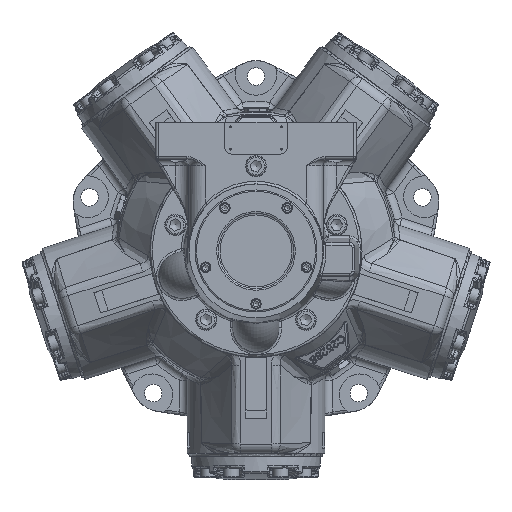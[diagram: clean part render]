
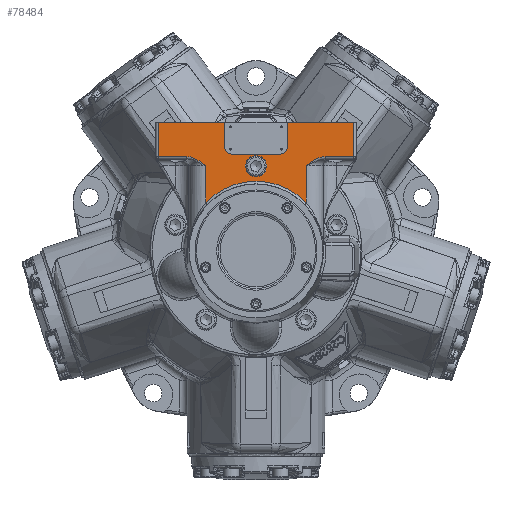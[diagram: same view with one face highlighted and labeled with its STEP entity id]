
A CAD part, top view. The second image highlights one B-rep face of the part: STEP entity #78484.
In plain terms, the highlighted planar face has unit normal (0, 0, 1).
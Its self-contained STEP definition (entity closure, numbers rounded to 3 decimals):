
#1197=FACE_BOUND('',#20373,.T.);
#3378=PLANE('',#84690);
#7247=LINE('',#214748,#10672);
#7265=LINE('',#215688,#10690);
#7283=LINE('',#216048,#10708);
#7284=LINE('',#216050,#10709);
#7285=LINE('',#216052,#10710);
#7286=LINE('',#216054,#10711);
#7287=LINE('',#216082,#10712);
#7288=LINE('',#216084,#10713);
#7289=LINE('',#216086,#10714);
#7290=LINE('',#216088,#10715);
#7291=LINE('',#216092,#10716);
#10672=VECTOR('',#100155,10.);
#10690=VECTOR('',#100221,10.);
#10708=VECTOR('',#100313,10.);
#10709=VECTOR('',#100314,10.);
#10710=VECTOR('',#100315,10.);
#10711=VECTOR('',#100316,10.);
#10712=VECTOR('',#100319,10.);
#10713=VECTOR('',#100320,10.);
#10714=VECTOR('',#100321,10.);
#10715=VECTOR('',#100322,10.);
#10716=VECTOR('',#100325,10.);
#15446=FACE_OUTER_BOUND('',#20372,.T.);
#20372=EDGE_LOOP('',(#66678,#66679,#66680,#66681,#66682,#66683,#66684,#66685,
#66686,#66687,#66688,#66689,#66690,#66691,#66692,#66693));
#20373=EDGE_LOOP('',(#66694));
#23417=CIRCLE('',#84691,83.375);
#23418=CIRCLE('',#84692,8.);
#23419=CIRCLE('',#84693,8.);
#23420=CIRCLE('',#84694,12.7);
#27290=B_SPLINE_CURVE_WITH_KNOTS('',3,(#216055,#216056,#216057,#216058,
#216059,#216060,#216061,#216062,#216063,#216064,#216065,#216066),
 .UNSPECIFIED.,.F.,.F.,(4,2,1,1,1,1,1,1,4),(-0.002,0.,0.504,
1.007,1.511,1.762,2.014,2.266,
2.518),.UNSPECIFIED.);
#27291=B_SPLINE_CURVE_WITH_KNOTS('',3,(#216069,#216070,#216071,#216072,
#216073,#216074,#216075,#216076,#216077,#216078,#216079,#216080),
 .UNSPECIFIED.,.F.,.F.,(4,1,1,1,1,1,1,2,4),(0.,0.504,0.755,
1.007,1.259,1.511,2.014,2.518,
2.519),.UNSPECIFIED.);
#33852=VERTEX_POINT('',#214745);
#33853=VERTEX_POINT('',#214747);
#33904=VERTEX_POINT('',#215674);
#33905=VERTEX_POINT('',#215687);
#33944=VERTEX_POINT('',#216046);
#33945=VERTEX_POINT('',#216047);
#33946=VERTEX_POINT('',#216049);
#33947=VERTEX_POINT('',#216051);
#33948=VERTEX_POINT('',#216053);
#33949=VERTEX_POINT('',#216068);
#33950=VERTEX_POINT('',#216081);
#33951=VERTEX_POINT('',#216083);
#33952=VERTEX_POINT('',#216085);
#33953=VERTEX_POINT('',#216087);
#33954=VERTEX_POINT('',#216089);
#33955=VERTEX_POINT('',#216091);
#33956=VERTEX_POINT('',#216094);
#44777=EDGE_CURVE('',#33852,#33853,#7247,.T.);
#44853=EDGE_CURVE('',#33904,#33905,#7265,.T.);
#44913=EDGE_CURVE('',#33944,#33945,#7283,.T.);
#44914=EDGE_CURVE('',#33945,#33946,#7284,.T.);
#44915=EDGE_CURVE('',#33947,#33946,#7285,.T.);
#44916=EDGE_CURVE('',#33948,#33947,#7286,.T.);
#44917=EDGE_CURVE('',#33905,#33948,#27290,.T.);
#44918=EDGE_CURVE('',#33853,#33904,#23417,.T.);
#44919=EDGE_CURVE('',#33949,#33852,#27291,.T.);
#44920=EDGE_CURVE('',#33950,#33949,#7287,.T.);
#44921=EDGE_CURVE('',#33951,#33950,#7288,.T.);
#44922=EDGE_CURVE('',#33951,#33952,#7289,.T.);
#44923=EDGE_CURVE('',#33952,#33953,#7290,.T.);
#44924=EDGE_CURVE('',#33953,#33954,#23418,.T.);
#44925=EDGE_CURVE('',#33954,#33955,#7291,.T.);
#44926=EDGE_CURVE('',#33955,#33944,#23419,.T.);
#44927=EDGE_CURVE('',#33956,#33956,#23420,.T.);
#66678=ORIENTED_EDGE('',*,*,#44913,.T.);
#66679=ORIENTED_EDGE('',*,*,#44914,.T.);
#66680=ORIENTED_EDGE('',*,*,#44915,.F.);
#66681=ORIENTED_EDGE('',*,*,#44916,.F.);
#66682=ORIENTED_EDGE('',*,*,#44917,.F.);
#66683=ORIENTED_EDGE('',*,*,#44853,.F.);
#66684=ORIENTED_EDGE('',*,*,#44918,.F.);
#66685=ORIENTED_EDGE('',*,*,#44777,.F.);
#66686=ORIENTED_EDGE('',*,*,#44919,.F.);
#66687=ORIENTED_EDGE('',*,*,#44920,.F.);
#66688=ORIENTED_EDGE('',*,*,#44921,.F.);
#66689=ORIENTED_EDGE('',*,*,#44922,.T.);
#66690=ORIENTED_EDGE('',*,*,#44923,.T.);
#66691=ORIENTED_EDGE('',*,*,#44924,.T.);
#66692=ORIENTED_EDGE('',*,*,#44925,.T.);
#66693=ORIENTED_EDGE('',*,*,#44926,.T.);
#66694=ORIENTED_EDGE('',*,*,#44927,.T.);
#78484=ADVANCED_FACE('',(#15446,#1197),#3378,.T.);
#84690=AXIS2_PLACEMENT_3D('',#216045,#100311,#100312);
#84691=AXIS2_PLACEMENT_3D('',#216067,#100317,#100318);
#84692=AXIS2_PLACEMENT_3D('',#216090,#100323,#100324);
#84693=AXIS2_PLACEMENT_3D('',#216093,#100326,#100327);
#84694=AXIS2_PLACEMENT_3D('',#216095,#100328,#100329);
#100155=DIRECTION('',(0.,-1.,0.));
#100221=DIRECTION('',(0.,1.,0.));
#100311=DIRECTION('center_axis',(0.,0.,
1.));
#100312=DIRECTION('ref_axis',(-1.,0.,0.));
#100313=DIRECTION('',(0.,1.,0.));
#100314=DIRECTION('',(-1.,0.,0.));
#100315=DIRECTION('',(0.,1.,0.));
#100316=DIRECTION('',(-1.,0.,0.));
#100317=DIRECTION('center_axis',(0.,0.,
1.));
#100318=DIRECTION('ref_axis',(0.,1.,0.));
#100319=DIRECTION('',(-1.,0.,0.));
#100320=DIRECTION('',(0.,-1.,0.));
#100321=DIRECTION('',(-1.,0.,0.));
#100322=DIRECTION('',(0.,-1.,0.));
#100323=DIRECTION('center_axis',(0.,0.,
-1.));
#100324=DIRECTION('ref_axis',(0.,-1.,0.));
#100325=DIRECTION('',(-1.,0.,0.));
#100326=DIRECTION('center_axis',(0.,0.,
-1.));
#100327=DIRECTION('ref_axis',(-1.,0.,0.));
#100328=DIRECTION('center_axis',(0.,0.,
-1.));
#100329=DIRECTION('ref_axis',(-1.,0.,0.));
#214745=CARTESIAN_POINT('',(60.478,102.,319.82));
#214747=CARTESIAN_POINT('',(60.478,57.392,319.82));
#214748=CARTESIAN_POINT('',(60.478,134.5,319.82));
#215674=CARTESIAN_POINT('',(-60.478,57.392,319.82));
#215687=CARTESIAN_POINT('',(-60.478,102.,319.82));
#215688=CARTESIAN_POINT('',(-60.478,79.5,319.82));
#216045=CARTESIAN_POINT('Origin',(120.,159.,319.82));
#216046=CARTESIAN_POINT('',(-37.5,124.,319.82));
#216047=CARTESIAN_POINT('',(-37.5,154.,319.82));
#216048=CARTESIAN_POINT('',(-37.5,141.5,319.82));
#216049=CARTESIAN_POINT('',(-117.,154.,319.82));
#216050=CARTESIAN_POINT('',(149.802,154.,319.82));
#216051=CARTESIAN_POINT('',(-117.,113.,319.82));
#216052=CARTESIAN_POINT('',(-117.,159.,319.82));
#216053=CARTESIAN_POINT('',(-82.727,113.,319.82));
#216054=CARTESIAN_POINT('',(60.,113.,319.82));
#216055=CARTESIAN_POINT('Ctrl Pts',(-60.478,102.,319.82));
#216056=CARTESIAN_POINT('Ctrl Pts',(-60.483,102.004,
319.82));
#216057=CARTESIAN_POINT('Ctrl Pts',(-60.488,102.008,319.82));
#216058=CARTESIAN_POINT('Ctrl Pts',(-61.801,103.064,319.82));
#216059=CARTESIAN_POINT('Ctrl Pts',(-64.445,105.191,319.82));
#216060=CARTESIAN_POINT('Ctrl Pts',(-68.576,108.18,319.82));
#216061=CARTESIAN_POINT('Ctrl Pts',(-72.226,110.283,
319.82));
#216062=CARTESIAN_POINT('Ctrl Pts',(-75.303,111.601,
319.82));
#216063=CARTESIAN_POINT('Ctrl Pts',(-77.711,112.374,
319.82));
#216064=CARTESIAN_POINT('Ctrl Pts',(-80.205,112.879,
319.82));
#216065=CARTESIAN_POINT('Ctrl Pts',(-81.888,113.,319.82));
#216066=CARTESIAN_POINT('Ctrl Pts',(-82.727,113.,319.82));
#216067=CARTESIAN_POINT('Origin',(0.,0.,
319.82));
#216068=CARTESIAN_POINT('',(82.727,113.,319.82));
#216069=CARTESIAN_POINT('Ctrl Pts',(82.727,113.,319.82));
#216070=CARTESIAN_POINT('Ctrl Pts',(81.049,113.,319.82));
#216071=CARTESIAN_POINT('Ctrl Pts',(78.513,112.632,319.82));
#216072=CARTESIAN_POINT('Ctrl Pts',(75.303,111.6,319.82));
#216073=CARTESIAN_POINT('Ctrl Pts',(72.995,110.612,319.82));
#216074=CARTESIAN_POINT('Ctrl Pts',(70.765,109.441,319.82));
#216075=CARTESIAN_POINT('Ctrl Pts',(67.888,107.682,319.82));
#216076=CARTESIAN_POINT('Ctrl Pts',(64.444,105.19,319.82));
#216077=CARTESIAN_POINT('Ctrl Pts',(61.801,103.064,319.82));
#216078=CARTESIAN_POINT('Ctrl Pts',(60.488,102.008,319.82));
#216079=CARTESIAN_POINT('Ctrl Pts',(60.483,102.004,319.82));
#216080=CARTESIAN_POINT('Ctrl Pts',(60.478,102.,319.82));
#216081=CARTESIAN_POINT('',(117.,113.,319.82));
#216082=CARTESIAN_POINT('',(60.,113.,319.82));
#216083=CARTESIAN_POINT('',(117.,154.,319.82));
#216084=CARTESIAN_POINT('',(117.,159.,319.82));
#216085=CARTESIAN_POINT('',(37.5,154.,319.82));
#216086=CARTESIAN_POINT('',(149.802,154.,319.82));
#216087=CARTESIAN_POINT('',(37.5,124.,319.82));
#216088=CARTESIAN_POINT('',(37.5,159.102,319.82));
#216089=CARTESIAN_POINT('',(29.5,116.,319.82));
#216090=CARTESIAN_POINT('Origin',(29.5,124.,319.82));
#216091=CARTESIAN_POINT('',(-29.5,116.,319.82));
#216092=CARTESIAN_POINT('',(74.75,116.,319.82));
#216093=CARTESIAN_POINT('Origin',(-29.5,124.,319.82));
#216094=CARTESIAN_POINT('',(12.7,101.6,319.82));
#216095=CARTESIAN_POINT('Origin',(0.,101.6,319.82));
